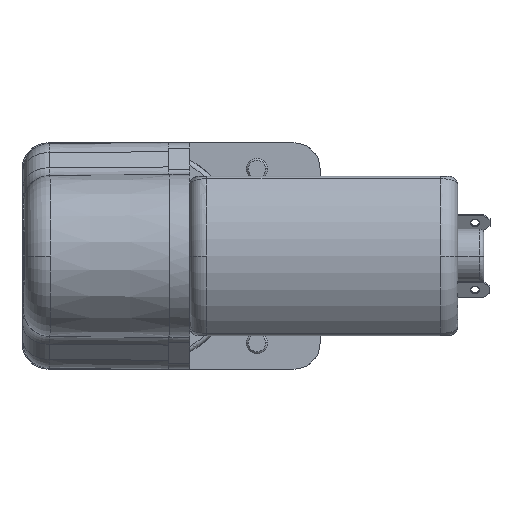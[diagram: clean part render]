
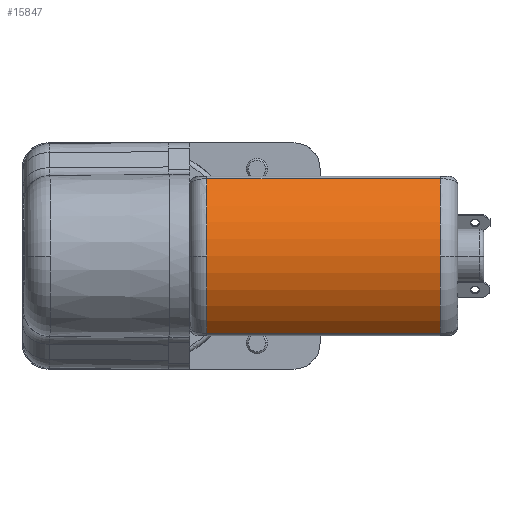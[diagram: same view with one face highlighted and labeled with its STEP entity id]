
A CAD part, front view. The second image highlights one B-rep face of the part: STEP entity #15847.
In plain terms, the highlighted cylindrical face has radius 12.1 mm (diameter 24.2 mm), a partial arc.
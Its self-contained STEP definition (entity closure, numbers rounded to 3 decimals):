
#213 = ORIENTED_EDGE ( 'NONE', *, *, #12848, .T. ) ;
#280 = CARTESIAN_POINT ( 'NONE',  ( -11.2, -24.715, -8.884 ) ) ;
#622 = EDGE_CURVE ( 'NONE', #13867, #13373, #16010, .T. ) ;
#833 = AXIS2_PLACEMENT_3D ( 'NONE', #13511, #5760, #14709 ) ;
#1149 = LINE ( 'NONE', #16196, #9384 ) ;
#1245 = DIRECTION ( 'NONE',  ( 1., 0., 0. ) ) ;
#1625 = ORIENTED_EDGE ( 'NONE', *, *, #12116, .T. ) ;
#1757 = CIRCLE ( 'NONE', #8905, 12.1 ) ;
#1918 = AXIS2_PLACEMENT_3D ( 'NONE', #5651, #14609, #6987 ) ;
#1964 = CIRCLE ( 'NONE', #11607, 12.1 ) ;
#3556 = VERTEX_POINT ( 'NONE', #4710 ) ;
#3743 = VERTEX_POINT ( 'NONE', #6467 ) ;
#3814 = EDGE_CURVE ( 'NONE', #4588, #6690, #1149, .T. ) ;
#3979 = CYLINDRICAL_SURFACE ( 'NONE', #14606, 12.1 ) ;
#4016 = ORIENTED_EDGE ( 'NONE', *, *, #14747, .T. ) ;
#4036 = CARTESIAN_POINT ( 'NONE',  ( -11.2, -24.715, 8.884 ) ) ;
#4588 = VERTEX_POINT ( 'NONE', #9386 ) ;
#4710 = CARTESIAN_POINT ( 'NONE',  ( -11.2, -28.6, 0. ) ) ;
#4755 = DIRECTION ( 'NONE',  ( -1., 0., 0. ) ) ;
#5651 = CARTESIAN_POINT ( 'NONE',  ( -38., -16.5, 0. ) ) ;
#5760 = DIRECTION ( 'NONE',  ( 1., 0., 0. ) ) ;
#6467 = CARTESIAN_POINT ( 'NONE',  ( -38., -28.6, 0. ) ) ;
#6545 = CARTESIAN_POINT ( 'NONE',  ( -38., -24.715, 8.884 ) ) ;
#6690 = VERTEX_POINT ( 'NONE', #280 ) ;
#6729 = ORIENTED_EDGE ( 'NONE', *, *, #8639, .T. ) ;
#6987 = DIRECTION ( 'NONE',  ( 0., -1., 0. ) ) ;
#7031 = ORIENTED_EDGE ( 'NONE', *, *, #3814, .T. ) ;
#7538 = ORIENTED_EDGE ( 'NONE', *, *, #622, .T. ) ;
#7546 = CIRCLE ( 'NONE', #1918, 12.1 ) ;
#7681 = CARTESIAN_POINT ( 'NONE',  ( -11.2, -16.5, 0. ) ) ;
#8639 = EDGE_CURVE ( 'NONE', #13373, #3743, #7546, .T. ) ;
#8905 = AXIS2_PLACEMENT_3D ( 'NONE', #12602, #4755, #13801 ) ;
#9041 = DIRECTION ( 'NONE',  ( 0., -1., 0. ) ) ;
#9384 = VECTOR ( 'NONE', #15248, 1000. ) ;
#9386 = CARTESIAN_POINT ( 'NONE',  ( -38., -24.715, -8.884 ) ) ;
#9427 = VECTOR ( 'NONE', #9797, 1000. ) ;
#9797 = DIRECTION ( 'NONE',  ( -1., 0., 0. ) ) ;
#10000 = CARTESIAN_POINT ( 'NONE',  ( -40., -24.715, 8.884 ) ) ;
#10566 = CARTESIAN_POINT ( 'NONE',  ( -40., -16.5, 0. ) ) ;
#10644 = FACE_OUTER_BOUND ( 'NONE', #14951, .T. ) ;
#11607 = AXIS2_PLACEMENT_3D ( 'NONE', #7681, #16492, #9041 ) ;
#11835 = DIRECTION ( 'NONE',  ( 0., 1., 0. ) ) ;
#12116 = EDGE_CURVE ( 'NONE', #3556, #13867, #1964, .T. ) ;
#12602 = CARTESIAN_POINT ( 'NONE',  ( -11.2, -16.5, 0. ) ) ;
#12848 = EDGE_CURVE ( 'NONE', #6690, #3556, #1757, .T. ) ;
#13373 = VERTEX_POINT ( 'NONE', #6545 ) ;
#13511 = CARTESIAN_POINT ( 'NONE',  ( -38., -16.5, 0. ) ) ;
#13801 = DIRECTION ( 'NONE',  ( 0., -1., 0. ) ) ;
#13867 = VERTEX_POINT ( 'NONE', #4036 ) ;
#14606 = AXIS2_PLACEMENT_3D ( 'NONE', #10566, #1245, #11835 ) ;
#14609 = DIRECTION ( 'NONE',  ( 1., 0., 0. ) ) ;
#14709 = DIRECTION ( 'NONE',  ( 0., -1., 0. ) ) ;
#14747 = EDGE_CURVE ( 'NONE', #3743, #4588, #14958, .T. ) ;
#14951 = EDGE_LOOP ( 'NONE', ( #6729, #4016, #7031, #213, #1625, #7538 ) ) ;
#14958 = CIRCLE ( 'NONE', #833, 12.1 ) ;
#15248 = DIRECTION ( 'NONE',  ( 1., 0., 0. ) ) ;
#15847 = ADVANCED_FACE ( 'NONE', ( #10644 ), #3979, .T. ) ;
#16010 = LINE ( 'NONE', #10000, #9427 ) ;
#16196 = CARTESIAN_POINT ( 'NONE',  ( -40., -24.715, -8.884 ) ) ;
#16492 = DIRECTION ( 'NONE',  ( -1., 0., 0. ) ) ;
